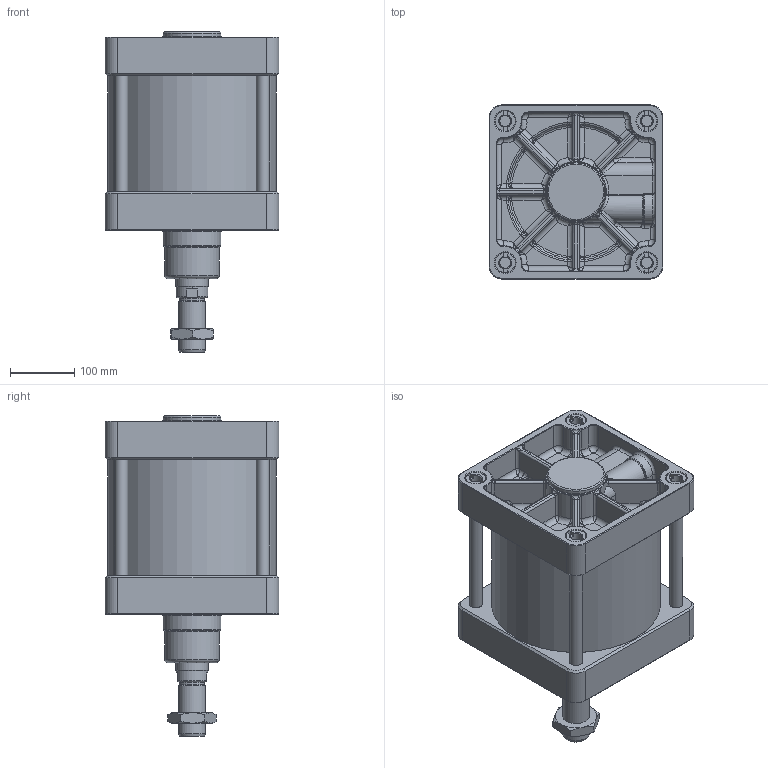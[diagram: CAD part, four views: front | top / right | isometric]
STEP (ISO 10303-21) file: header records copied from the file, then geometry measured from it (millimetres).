
FILE_DESCRIPTION(/* description */ ('Unknown'),/* implementation_level */ '2;1');
FILE_NAME(/* name */ 'UDM 250_100',/* time_stamp */ '2024-08-15T13:56:11+02:00',/* author */ ('Unknown'),/* organization */ ('Unknown'),/* preprocessor_version */ 'ST-DEVELOPER v16.7',/* originating_system */ 'Solid Edge',/* authorisation */ 'Unknown');
FILE_SCHEMA (('AUTOMOTIVE_DESIGN {1 0 10303 214 3 1 1}'));
Length unit declared in the file: millimetre
Products named in the file (7): UDM 250_100; Kit_1; Profilrohr 250_100; Zugstange 250_100; Kit_2; Mutter; Kolbenstange 250_100
Assembly tree (9 placements, depth 2):
  UDM 250_100
    Kit_1
    Profilrohr 250_100
    Zugstange 250_100  x4
    Kit_2
    Mutter
    Kolbenstange 250_100
Bounding box: 270 x 270 x 497 mm (x, y, z)
Volume: 10671606.5 mm3; surface area: 1270740.6 mm2
Topology: 9 solids, 13 shells, 1177 faces, 2799 edges, 1549 vertices
Faces by surface type: cylinder 364, plane 267, torus 191, bspline 186, cone 139, sphere 30
Full cylindrical faces by diameter (mm): 8 x2, 10 x2, 11 x2, 11.2 x2, 16 x2, 17.28 x8, 17.294 x8, 20 x4, 20.5 x8, 24 x2, 25 x2, 30.28 x2, 30.291 x2, 32 x8, 38.8 x1, 39.835 x1, 40 x2, 42 x1, 49 x1, 50 x3, 50.8 x1, 50.962 x1, 51 x2, 55 x1, 58 x1, 60 x2, 85 x1, 90 x2, 94 x1, 250 x2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
Entity records: 55891 total; most frequent: CARTESIAN_POINT 23983, ORIENTED_EDGE 5146, DIRECTION 4459, EDGE_CURVE 2573, AXIS2_PLACEMENT_3D 1834, VERTEX_POINT 1511, EDGE_LOOP 1268, FACE_BOUND 1268
